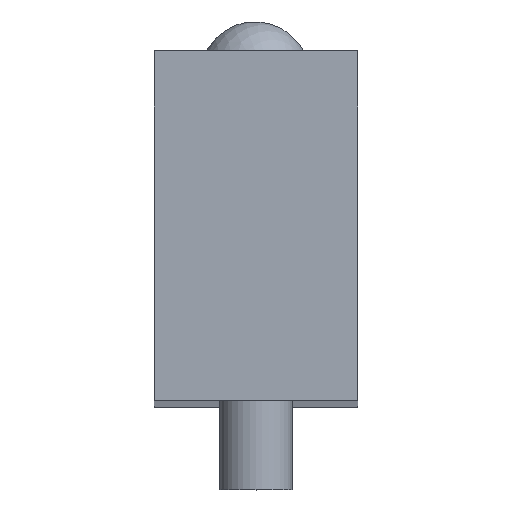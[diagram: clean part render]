
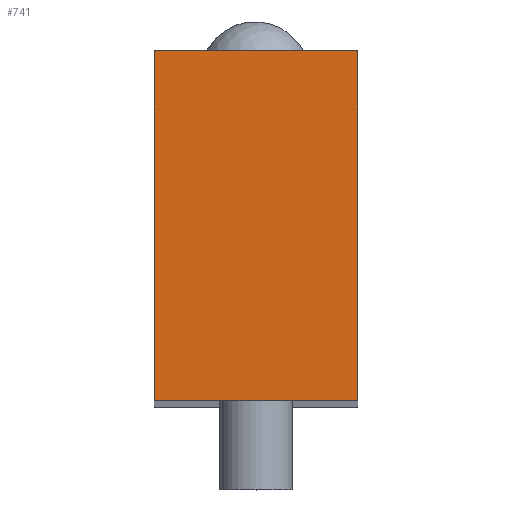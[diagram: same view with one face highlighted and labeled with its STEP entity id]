
A CAD part, top view. The second image highlights one B-rep face of the part: STEP entity #741.
In plain terms, the highlighted planar face has unit normal (0, 0, 1).
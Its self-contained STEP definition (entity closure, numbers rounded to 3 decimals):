
#44=LINE('',#1267,#71);
#48=LINE('',#1280,#75);
#55=LINE('',#1301,#82);
#56=LINE('',#1303,#83);
#71=VECTOR('',#1065,10.);
#75=VECTOR('',#1075,10.);
#82=VECTOR('',#1100,10.);
#83=VECTOR('',#1103,10.);
#171=FACE_OUTER_BOUND('',#244,.T.);
#244=EDGE_LOOP('',(#620,#621,#622,#623));
#356=VERTEX_POINT('',#1264);
#357=VERTEX_POINT('',#1266);
#362=VERTEX_POINT('',#1277);
#363=VERTEX_POINT('',#1279);
#435=EDGE_CURVE('',#357,#356,#44,.T.);
#441=EDGE_CURVE('',#363,#362,#48,.T.);
#452=EDGE_CURVE('',#356,#363,#55,.T.);
#453=EDGE_CURVE('',#362,#357,#56,.T.);
#620=ORIENTED_EDGE('',*,*,#441,.T.);
#621=ORIENTED_EDGE('',*,*,#453,.T.);
#622=ORIENTED_EDGE('',*,*,#435,.T.);
#623=ORIENTED_EDGE('',*,*,#452,.T.);
#644=PLANE('',#866);
#741=ADVANCED_FACE('',(#171),#644,.T.);
#866=AXIS2_PLACEMENT_3D('',#1304,#1104,#1105);
#1065=DIRECTION('',(-1.,0.,0.));
#1075=DIRECTION('',(1.,0.,0.));
#1100=DIRECTION('',(0.,-1.,0.));
#1103=DIRECTION('',(0.,1.,0.));
#1104=DIRECTION('center_axis',(0.,0.,1.));
#1105=DIRECTION('ref_axis',(1.,0.,0.));
#1264=CARTESIAN_POINT('',(-13.9,47.8,55.));
#1266=CARTESIAN_POINT('',(13.9,47.8,55.));
#1267=CARTESIAN_POINT('',(13.9,47.8,55.));
#1277=CARTESIAN_POINT('',(13.9,0.,55.));
#1279=CARTESIAN_POINT('',(-13.9,0.,55.));
#1280=CARTESIAN_POINT('',(-13.9,0.,55.));
#1301=CARTESIAN_POINT('',(-13.9,47.8,55.));
#1303=CARTESIAN_POINT('',(13.9,0.,55.));
#1304=CARTESIAN_POINT('Origin',(0.,23.9,55.));
